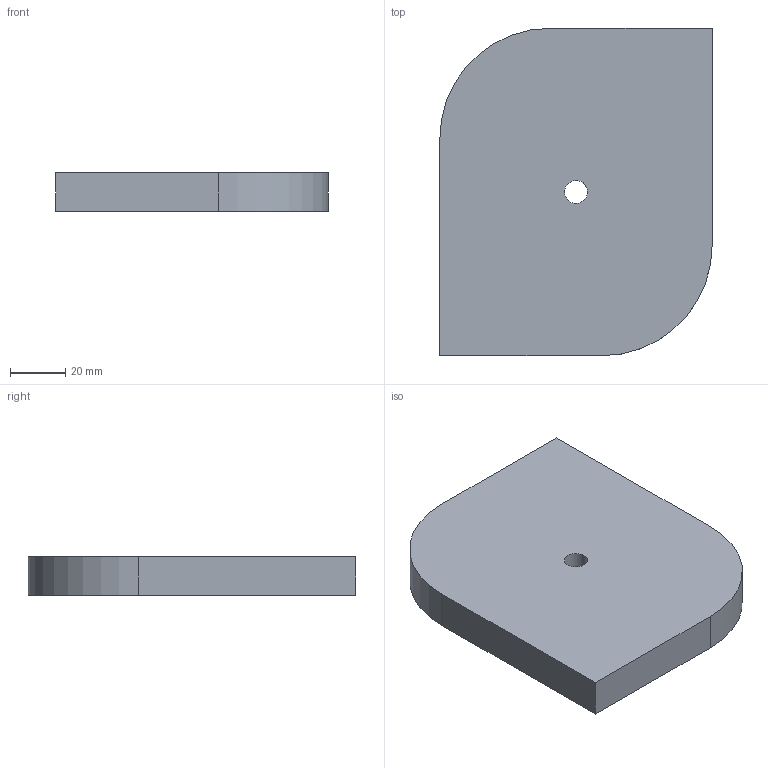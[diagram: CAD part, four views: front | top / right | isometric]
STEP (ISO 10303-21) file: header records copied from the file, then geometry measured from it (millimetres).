
FILE_DESCRIPTION(('CATIA V5 STEP Exchange'),'2;1');
FILE_NAME('C:\_Andres\UNIVERSIDAD\IQS\ASIGNATURAS\DAO\EXF\EXF-15161c\1original\Formosa_Marín_Ej01-plano_v9.stp','2016-03-04T14:59:44+00:00',('none'),('none'),'CATIA Version 5 Release 20 SP 1 (IN-10)','CATIA V5 STEP AP203','none');
FILE_SCHEMA(('CONFIG_CONTROL_DESIGN'));
Length unit declared in the file: millimetre
Products named in the file (1): Formosa_Marín_Ej01-plano_v9
Bounding box: 99 x 119 x 14 mm (x, y, z)
Volume: 154548.4 mm3; surface area: 28070 mm2
Topology: 1 solids, 1 shells, 10 faces, 24 edges, 16 vertices
Faces by surface type: plane 6, cylinder 4
Entity records: 333 total; most frequent: CARTESIAN_POINT 51, ORIENTED_EDGE 48, DIRECTION 44, EDGE_CURVE 24, AXIS2_PLACEMENT_3D 19, VECTOR 16, LINE 16, VERTEX_POINT 16
